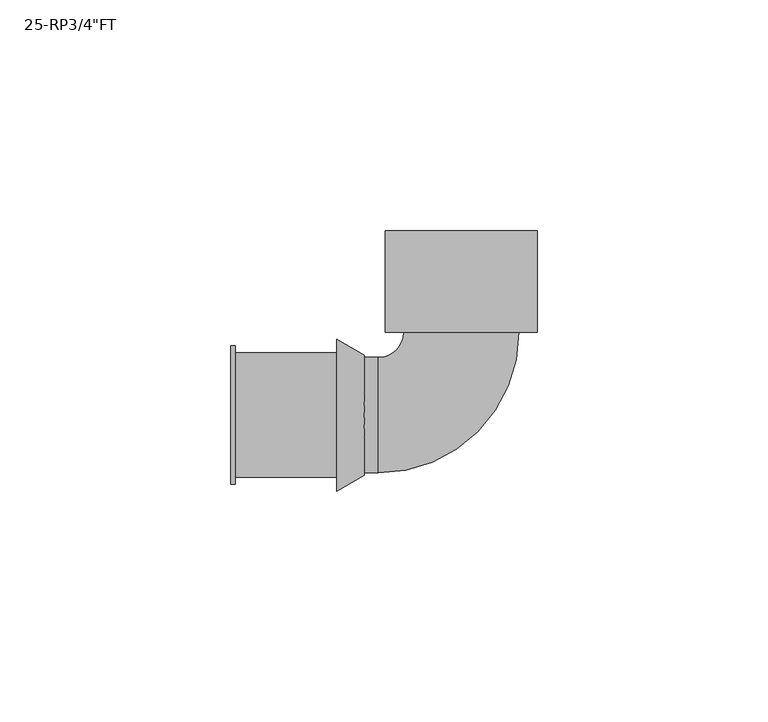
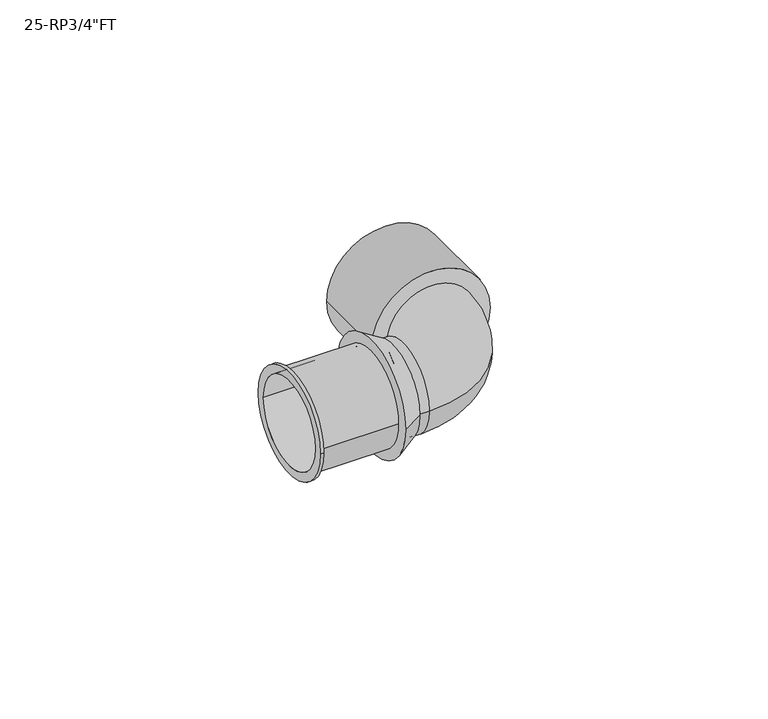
"""IFC4 building model written with IfcOpenShell, lengths in millimetres: pipe fitting geometry."""

import ifcopenshell
import ifcopenshell.guid

model = None  # the IFC model being written
_history = None  # IfcOwnerHistory: only IFC2X3 demands one
_inside = {}  # id of a spatial element -> (the spatial element, [elements in it])
_under = {}  # id of a project, library or spatial element -> (it, [spatial elements below it])
_declared = {}  # id of a project -> (the project, [libraries it declares])
_typed = {}  # id of a type object -> (the type object, [elements of that type])
_made_of = {}  # id of a material, layer set ... -> (it, [elements and type objects made of it])


def new_model(schema):
    """Start an empty IFC model of exactly this schema.

    Asked for "IFC4X3", IfcOpenShell would pick the latest addendum, in which some entities
    have other attributes; the version numbers below select the first issue.
    IFC2X3 requires an IfcOwnerHistory on every rooted entity: one is made here for all.
    """
    global model, _history
    if schema == "IFC4X3":
        model = ifcopenshell.file(schema_version=(4, 3, 0, 0))
    else:
        model = ifcopenshell.file(schema=schema)
    _inside.clear()
    _under.clear()
    _declared.clear()
    _typed.clear()
    _made_of.clear()
    _history = None
    if model.schema == "IFC2X3":
        org = make("IfcOrganization", Name="unknown")
        user = make(
            "IfcPersonAndOrganization",
            ThePerson=make("IfcPerson", FamilyName="unknown"),
            TheOrganization=org,
        )
        app = make(
            "IfcApplication",
            ApplicationDeveloper=org,
            Version="unknown",
            ApplicationFullName="unknown",
            ApplicationIdentifier="unknown",
        )
        _history = make(
            "IfcOwnerHistory",
            OwningUser=user,
            OwningApplication=app,
            ChangeAction="ADDED",
            CreationDate=0,
        )
    return model


def make(cls, **values):
    """One entity of the class cls with the attributes given. An attribute that is None is left unset."""
    return model.create_entity(
        cls, **{name: value for name, value in values.items() if value is not None}
    )


def rooted(cls, **values):
    """An entity with a GlobalId (a new one), such as an element, a storey or a relation."""
    return make(cls, GlobalId=ifcopenshell.guid.new(), OwnerHistory=_history, **values)


def si_unit(unit_type, name, prefix=None):
    """IfcSIUnit, for example si_unit("LENGTHUNIT", "METRE", prefix="MILLI")."""
    return make("IfcSIUnit", UnitType=unit_type, Prefix=prefix, Name=name)


def assignment(units):
    """IfcUnitAssignment: the units of a project."""
    return None if units is None else make("IfcUnitAssignment", Units=units)


def point(xyz):
    """IfcCartesianPoint."""
    return None if xyz is None else make("IfcCartesianPoint", Coordinates=xyz)


def direction(xyz):
    """IfcDirection."""
    return None if xyz is None else make("IfcDirection", DirectionRatios=xyz)


def frame(location, z_axis=None, x_axis=None):
    """IfcAxis2Placement3D, a coordinate frame: its origin and axes. An axis left out is left unset."""
    return make(
        "IfcAxis2Placement3D",
        Location=point(location),
        Axis=direction(z_axis),
        RefDirection=direction(x_axis),
    )


def origin():
    """The frame at (0, 0, 0) with its axes left unset."""
    return frame((0.0, 0.0, 0.0))


def place(relative_to, where):
    """IfcLocalPlacement: puts the frame where relative to a parent placement (None: the world)."""
    return make(
        "IfcLocalPlacement", PlacementRelTo=relative_to, RelativePlacement=where
    )


def context(
    kind, dimensions, precision=None, world=None, true_north=None, identifier=None
):
    """IfcGeometricRepresentationContext, for example the 3D "Model" context."""
    return make(
        "IfcGeometricRepresentationContext",
        ContextIdentifier=identifier,
        ContextType=kind,
        CoordinateSpaceDimension=dimensions,
        Precision=precision,
        WorldCoordinateSystem=world,
        TrueNorth=true_north,
    )


def project(units=None, contexts=None):
    """IfcProject with its units and contexts."""
    return rooted(
        "IfcProject",
        Name="project",
        RepresentationContexts=contexts,
        UnitsInContext=assignment(units),
    )


def spatial(cls, under=None, at=None, **own):
    """A site, building, storey or space (cls), placed at a placement, below another one or the project."""
    s = rooted(cls, ObjectPlacement=at, **own)
    if under is not None:
        _under.setdefault(under.id(), (under, []))[1].append(s)
    return s


def polyline(points):
    """IfcPolyline through the points."""
    return make("IfcPolyline", Points=[point(p) for p in points])


def circle_curve(where, radius):
    """IfcCircle in the frame where."""
    return make("IfcCircle", Position=where, Radius=radius)


def ellipse_curve(where, semi_axis1, semi_axis2):
    """IfcEllipse in the frame where."""
    return make(
        "IfcEllipse", Position=where, SemiAxis1=semi_axis1, SemiAxis2=semi_axis2
    )


def trimmed(basis, trim1, trim2, sense, master):
    """IfcTrimmedCurve: the piece of a basis curve between two trims."""
    return make(
        "IfcTrimmedCurve",
        BasisCurve=basis,
        Trim1=trim1,
        Trim2=trim2,
        SenseAgreement=sense,
        MasterRepresentation=master,
    )


def shape(context_of_items, identifier, shape_type, items):
    """IfcShapeRepresentation: the items that make up one representation, for example the "Body"."""
    return make(
        "IfcShapeRepresentation",
        ContextOfItems=context_of_items,
        RepresentationIdentifier=identifier,
        RepresentationType=shape_type,
        Items=items,
    )


def source(mapping_origin, context_of_items, identifier, shape_type, items):
    """IfcRepresentationMap: a shape defined once, which mapped items show again and again."""
    return make(
        "IfcRepresentationMap",
        MappingOrigin=mapping_origin,
        MappedRepresentation=shape(context_of_items, identifier, shape_type, items),
    )


def transform(
    local_origin,
    x_axis=None,
    y_axis=None,
    z_axis=None,
    scale=None,
    scale2=None,
    scale3=None,
    uniform=True,
):
    """IfcCartesianTransformationOperator3D, or its non-uniform kind. x_axis, y_axis, z_axis: its Axis1, 2, 3."""
    if uniform:
        return make(
            "IfcCartesianTransformationOperator3D",
            Axis1=direction(x_axis),
            Axis2=direction(y_axis),
            LocalOrigin=point(local_origin),
            Scale=scale,
            Axis3=direction(z_axis),
        )
    return make(
        "IfcCartesianTransformationOperator3DnonUniform",
        Axis1=direction(x_axis),
        Axis2=direction(y_axis),
        LocalOrigin=point(local_origin),
        Scale=scale,
        Axis3=direction(z_axis),
        Scale2=scale2,
        Scale3=scale3,
    )


def mapped(mapping_source, mapping_target):
    """IfcMappedItem: shows the shape of a source again, moved by a transform."""
    return make(
        "IfcMappedItem", MappingSource=mapping_source, MappingTarget=mapping_target
    )


def made_of(thing, what):
    """Note that an element or type object is made of a material, layer set ...; save() writes the relation."""
    if what is not None:
        _made_of.setdefault(what.id(), (what, []))[1].append(thing)
    return thing


def element(
    cls,
    number,
    at=None,
    inside=None,
    cuts=None,
    type_object=None,
    material=None,
    context=None,
    identifier="Body",
    shape_type=None,
    held_by="IfcProductDefinitionShape",
    body=None,
    shapes=None,
    **own,
):
    """One element of the class cls, such as IfcWall. Its Tag is "e" and its number.

    at: its placement. inside: the storey or other place that contains it. cuts: it is an
    opening in that element (IfcRelVoidsElement). A single representation is given by context,
    identifier, shape_type and body (its items); several are given by shapes. held_by: the class
    of the entity that holds the representations. save() writes the other relations.
    """
    e = rooted(cls, Tag="e%d" % number, ObjectPlacement=at, **own)
    if body is not None:
        shapes = [shape(context, identifier, shape_type, body)]
    if shapes is not None:
        e.Representation = make(held_by, Representations=shapes)
    if inside is not None:
        _inside.setdefault(inside.id(), (inside, []))[1].append(e)
    if cuts is not None:
        rooted(
            "IfcRelVoidsElement", RelatingBuildingElement=cuts, RelatedOpeningElement=e
        )
    if type_object is not None:
        _typed.setdefault(type_object.id(), (type_object, []))[1].append(e)
    return made_of(e, material)


def aggregate(whole, parts):
    """IfcRelAggregates: a whole, such as a stair, and the parts it consists of."""
    return rooted("IfcRelAggregates", RelatingObject=whole, RelatedObjects=parts)


def save(model, path):
    """Write the relations noted so far, then the file.

    IfcRelAggregates (storeys below a building ...), IfcRelContainedInSpatialStructure (elements
    in a storey), IfcRelDefinesByType, IfcRelAssociatesMaterial and IfcRelDeclares: one each for
    every whole, place, type object, material and project.
    """
    for whole, parts in _under.values():
        aggregate(whole, parts)
    for where, things in _inside.values():
        rooted(
            "IfcRelContainedInSpatialStructure",
            RelatedElements=things,
            RelatingStructure=where,
        )
    for kind, things in _typed.values():
        rooted("IfcRelDefinesByType", RelatedObjects=things, RelatingType=kind)
    for what, things in _made_of.values():
        rooted("IfcRelAssociatesMaterial", RelatedObjects=things, RelatingMaterial=what)
    for by, libraries in _declared.values():
        rooted("IfcRelDeclares", RelatingContext=by, RelatedDefinitions=libraries)
    model.write(path)


def plane_surface(at):
    """IfcPlane: the flat surface through the origin of the frame at, square to its z axis."""
    return make("IfcPlane", Position=at)


def cylinder_surface(at, radius):
    """IfcCylindricalSurface: all points at the distance radius from the z axis of the frame at."""
    return make("IfcCylindricalSurface", Position=at, Radius=radius)


def revolved_surface(curve, axis_point, axis_direction):
    """IfcSurfaceOfRevolution: the curve turned about the line through axis_point along axis_direction."""
    return make(
        "IfcSurfaceOfRevolution",
        SweptCurve=make("IfcArbitraryOpenProfileDef", ProfileType="CURVE", Curve=curve),
        AxisPosition=make("IfcAxis1Placement", Location=point(axis_point), Axis=direction(axis_direction)),
    )


def advanced_brep(points, edges, surfaces, faces):
    """IfcAdvancedBrep: a solid bounded by faces that lie on surfaces and meet in shared edges.

    An edge is (start, end): straight between two places in points (the first is 0);
    or (start, end, curve); or (start, end, curve, False) where it runs against its curve.
    A face is (place in surfaces, loops), or (place, loops, False) where it looks against
    its surface's normal. A loop lists edges by number (the first is 1), with a minus sign
    where the edge is run from its end to its start. The first loop is the outer one.
    """
    corners = [point(p) for p in points]
    vertices = [make("IfcVertexPoint", VertexGeometry=c) for c in corners]
    made = []
    for start, end, *more in edges:
        made.append(
            make(
                "IfcEdgeCurve",
                EdgeStart=vertices[start],
                EdgeEnd=vertices[end],
                EdgeGeometry=more[0] if more else make("IfcPolyline", Points=[corners[start], corners[end]]),
                SameSense=more[1] if len(more) > 1 else True,
            )
        )
    hull = []
    for where, loops, *sense in faces:
        bounds = []
        for j, loop in enumerate(loops):
            ring = [make("IfcOrientedEdge", EdgeElement=made[abs(k) - 1], Orientation=k > 0) for k in loop]
            bounds.append(
                make(
                    "IfcFaceOuterBound" if j == 0 else "IfcFaceBound",
                    Bound=make("IfcEdgeLoop", EdgeList=ring),
                    Orientation=True,
                )
            )
        hull.append(make("IfcAdvancedFace", Bounds=bounds, FaceSurface=surfaces[where], SameSense=sense[0] if sense else True))
    return make("IfcAdvancedBrep", Outer=make("IfcClosedShell", CfsFaces=hull))


def pipe_fitting_430ad02c(model_context):
    return source(origin(), model_context, "Body", "AdvancedBrep", [
        advanced_brep(
        [(-16.5, 40.0, 0.0), (16.5, 40.0, 0.0), (-12.5, 40.0, 0.0), (12.5, 40.0, 0.0), (-16.5, 18.0, 0.0), (16.5, 18.0, 0.0), (-12.5, 19.0, 0.0), (12.5, 19.0, 0.0)],
        [
            (0, 1, circle_curve(frame((0.0, 40.0, 0.0), z_axis=(0.0, 1.0, 0.0), x_axis=(1.0, 0.0, 0.0)), 16.5)),
            (1, 0, circle_curve(frame((0.0, 40.0, 0.0), z_axis=(0.0, 1.0, 0.0), x_axis=(1.0, 0.0, 0.0)), 16.5)),
            (2, 3, circle_curve(frame((0.0, 40.0, 0.0), z_axis=(0.0, -1.0, 0.0), x_axis=(1.0, 0.0, 0.0)), 12.5)),
            (3, 2, circle_curve(frame((0.0, 40.0, 0.0), z_axis=(0.0, -1.0, 0.0), x_axis=(1.0, 0.0, 0.0)), 12.5)),
            (4, 5, circle_curve(frame((0.0, 18.0, 0.0), z_axis=(0.0, -1.0, 0.0), x_axis=(1.0, 0.0, 0.0)), 16.5)),
            (5, 4, circle_curve(frame((0.0, 18.0, 0.0), z_axis=(0.0, -1.0, 0.0), x_axis=(1.0, 0.0, 0.0)), 16.5)),
            (1, 5),
            (4, 0),
            (2, 6),
            (6, 7, circle_curve(frame((0.0, 19.0, 0.0), z_axis=(0.0, -1.0, 0.0), x_axis=(1.0, 0.0, 0.0)), 12.5)),
            (7, 3),
            (7, 6, circle_curve(frame((0.0, 19.0, 0.0), z_axis=(0.0, -1.0, 0.0), x_axis=(1.0, 0.0, 0.0)), 12.5)),
        ],
        [
            plane_surface(frame((0.0, 40.0, 0.0), z_axis=(0.0, 1.0, 0.0), x_axis=(0.0, 0.0, 1.0))),
            plane_surface(frame((0.0, 18.0, 0.0), z_axis=(0.0, -1.0, 0.0), x_axis=(0.0, 0.0, 1.0))),
            cylinder_surface(frame((0.0, 40.0, 0.0), z_axis=(0.0, 1.0, 0.0), x_axis=(1.0, 0.0, 0.0)), 16.5),
            revolved_surface(polyline([(12.5, 19.0, 0.0), (12.5, 40.0, 0.0)]), (0.0, 40.0, 0.0), (0.0, -1.0, 0.0)),
            plane_surface(frame((0.0, 19.0, 0.0), z_axis=(0.0, 1.0, 0.0), x_axis=(0.0, 0.0, 1.0))),
        ],
        [
            (0, [[1, 2], [3, 4]]),
            (1, [[5, 6]]),
            (2, [[-2, 7, -5, 8]]),
            (2, [[-1, -8, -6, -7]]),
            (3, [[-3, 9, 10, 11]]),
            (3, [[-4, -11, 12, -9]]),
            (4, [[-10, -12]]),
        ],
    ),
        advanced_brep(
        [(12.5, 18.0, 0.0), (-12.5, 18.0, 0.0), (-18.0, 12.5, 0.0), (-18.0, -12.5, 0.0), (-21.0, -12.5, 0.0), (-21.0, 12.5, 0.0)],
        [
            (0, 1, circle_curve(frame((0.0, 18.0, 0.0), z_axis=(0.0, 1.0, 0.0), x_axis=(-1.0, 0.0, 0.0)), 12.5)),
            (1, 0, circle_curve(frame((0.0, 18.0, 0.0), z_axis=(0.0, 1.0, 0.0), x_axis=(-1.0, 0.0, 0.0)), 12.5)),
            (1, 2, circle_curve(frame((-18.0, 18.0, 0.0), z_axis=(0.0, 0.0, -1.0), x_axis=(0.0, -1.0, 0.0)), 5.5)),
            (2, 3, circle_curve(frame((-18.0, 0.0, 0.0), z_axis=(1.0, 0.0, 0.0), x_axis=(0.0, 1.0, 0.0)), 12.5)),
            (3, 0, circle_curve(frame((-18.0, 18.0, 0.0), z_axis=(0.0, 0.0, 1.0), x_axis=(0.0, -1.0, 0.0)), 30.5)),
            (3, 2, circle_curve(frame((-18.0, 0.0, 0.0), z_axis=(1.0, 0.0, 0.0), x_axis=(0.0, 1.0, 0.0)), 12.5)),
            (4, 5, circle_curve(frame((-21.0, 0.0, 0.0), z_axis=(-1.0, 0.0, 0.0), x_axis=(0.0, 1.0, 0.0)), 12.5)),
            (5, 4, circle_curve(frame((-21.0, 0.0, 0.0), z_axis=(-1.0, 0.0, 0.0), x_axis=(0.0, 1.0, 0.0)), 12.5)),
            (4, 3),
            (2, 5),
        ],
        [
            plane_surface(frame((0.0, 18.0, 0.0), z_axis=(0.0, 1.0, 0.0), x_axis=(0.0, 0.0, 1.0))),
            revolved_surface(trimmed(ellipse_curve(frame((-18.0, 0.0, 0.0), z_axis=(-1.0, 0.0, 0.0), x_axis=(0.0, 1.0, 0.0)), 12.5, 12.5), [point((-18.0, -12.5, 0.0))], [point((-18.0, 12.5, 0.0))], True, "CARTESIAN"), (-18.0, 18.0, 0.0), (0.0, 0.0, 1.0)),
            revolved_surface(trimmed(ellipse_curve(frame((-18.0, 0.0, 0.0), z_axis=(-1.0, 0.0, 0.0), x_axis=(0.0, 1.0, 0.0)), 12.5, 12.5), [point((-18.0, 12.5, 0.0))], [point((-18.0, -12.5, 0.0))], True, "CARTESIAN"), (-18.0, 18.0, 0.0), (0.0, 0.0, 1.0)),
            plane_surface(frame((-21.0, 0.0, 0.0), z_axis=(-1.0, 0.0, 0.0), x_axis=(0.0, 0.0, 1.0))),
            cylinder_surface(frame((-21.0, 0.0, 0.0), z_axis=(-1.0, 0.0, 0.0), x_axis=(0.0, 1.0, 0.0)), 12.5),
        ],
        [
            (0, [[1, 2]]),
            (1, [[-2, 3, 4, 5]]),
            (2, [[-1, -5, 6, -3]]),
            (3, [[7, 8]]),
            (4, [[-7, 9, -4, 10]]),
            (4, [[-8, -10, -6, -9]]),
        ],
    ),
        advanced_brep(
        [(-21.0, -13.0, 0.0), (-21.0, 13.0, 0.0), (-21.0, 12.5, 0.0), (-21.0, -12.5, 0.0), (-27.0, -16.5, 0.0), (-27.0, 16.5, 0.0), (-27.0, -12.5, 0.0), (-27.0, 12.5, 0.0)],
        [
            (0, 1, circle_curve(frame((-21.0, 0.0, 0.0), z_axis=(1.0, 0.0, 0.0), x_axis=(0.0, -1.0, 0.0)), 13.0)),
            (1, 0, circle_curve(frame((-21.0, 0.0, 0.0), z_axis=(1.0, 0.0, 0.0), x_axis=(0.0, 1.0, 0.0)), 13.0)),
            (2, 3, circle_curve(frame((-21.0, 0.0, 0.0), z_axis=(-1.0, 0.0, 0.0), x_axis=(0.0, 1.0, 0.0)), 12.5)),
            (3, 2, circle_curve(frame((-21.0, 0.0, 0.0), z_axis=(-1.0, 0.0, 0.0), x_axis=(0.0, 1.0, 0.0)), 12.5)),
            (4, 5, circle_curve(frame((-27.0, 0.0, 0.0), z_axis=(-1.0, 0.0, 0.0), x_axis=(0.0, 1.0, 0.0)), 16.5)),
            (5, 4, circle_curve(frame((-27.0, 0.0, 0.0), z_axis=(-1.0, 0.0, 0.0), x_axis=(0.0, -1.0, 0.0)), 16.5)),
            (6, 7, circle_curve(frame((-27.0, 0.0, 0.0), z_axis=(1.0, 0.0, 0.0), x_axis=(0.0, 1.0, 0.0)), 12.5)),
            (7, 6, circle_curve(frame((-27.0, 0.0, 0.0), z_axis=(1.0, 0.0, 0.0), x_axis=(0.0, 1.0, 0.0)), 12.5)),
            (0, 4),
            (5, 1),
            (2, 7),
            (6, 3),
        ],
        [
            plane_surface(frame((-21.0, 0.0, 0.0), z_axis=(1.0, 0.0, 0.0), x_axis=(0.0, 0.0, -1.0))),
            plane_surface(frame((-27.0, 0.0, 0.0), z_axis=(-1.0, 0.0, 0.0), x_axis=(0.0, 0.0, -1.0))),
            revolved_surface(polyline([(-21.0, -13.000000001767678, 0.0), (-27.0, -16.5, 0.0)]), (1.2857143, 0.0, 0.0), (-1.0, 0.0, 0.0)),
            revolved_surface(polyline([(-21.0, 13.000000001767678, 0.0), (-27.0, 16.5, 0.0)]), (1.2857143, 0.0, 0.0), (-1.0, 0.0, 0.0)),
            revolved_surface(polyline([(-21.0, 12.5, 0.0), (-27.0, 12.5, 0.0)]), (-27.0, 0.0, 0.0), (1.0, 0.0, 0.0)),
        ],
        [
            (0, [[1, 2], [3, 4]]),
            (1, [[5, 6], [7, 8]]),
            (2, [[-1, 9, -6, 10]]),
            (3, [[-2, -10, -5, -9]]),
            (4, [[11, -7, 12, -3]]),
            (4, [[-11, -4, -12, -8]]),
        ],
    ),
        advanced_brep(
        [(-50.0, -15.0, 0.0), (-50.0, 15.0, 0.0), (-50.0, -12.5, 0.0), (-50.0, 12.5, 0.0), (-27.0, -13.5, 0.0), (-27.0, 13.5, 0.0), (-27.0, -12.5, 0.0), (-27.0, 12.5, 0.0), (-49.0, 13.5, 0.0), (-49.0, -13.5, 0.0), (-49.0, -15.0, 0.0), (-49.0, 15.0, 0.0)],
        [
            (0, 1, circle_curve(frame((-50.0, 0.0, 0.0), z_axis=(-1.0, 0.0, 0.0), x_axis=(0.0, 1.0, 0.0)), 15.0)),
            (1, 0, circle_curve(frame((-50.0, 0.0, 0.0), z_axis=(-1.0, 0.0, 0.0), x_axis=(0.0, 1.0, 0.0)), 15.0)),
            (2, 3, circle_curve(frame((-50.0, 0.0, 0.0), z_axis=(1.0, 0.0, 0.0), x_axis=(0.0, 1.0, 0.0)), 12.5)),
            (3, 2, circle_curve(frame((-50.0, 0.0, 0.0), z_axis=(1.0, 0.0, 0.0), x_axis=(0.0, 1.0, 0.0)), 12.5)),
            (4, 5, circle_curve(frame((-27.0, 0.0, 0.0), z_axis=(1.0, 0.0, 0.0), x_axis=(0.0, 1.0, 0.0)), 13.5)),
            (5, 4, circle_curve(frame((-27.0, 0.0, 0.0), z_axis=(1.0, 0.0, 0.0), x_axis=(0.0, 1.0, 0.0)), 13.5)),
            (6, 7, circle_curve(frame((-27.0, 0.0, 0.0), z_axis=(-1.0, 0.0, 0.0), x_axis=(0.0, 1.0, 0.0)), 12.5)),
            (7, 6, circle_curve(frame((-27.0, 0.0, 0.0), z_axis=(-1.0, 0.0, 0.0), x_axis=(0.0, 1.0, 0.0)), 12.5)),
            (2, 6),
            (7, 3),
            (5, 8),
            (8, 9, circle_curve(frame((-49.0, 0.0, 0.0), z_axis=(1.0, 0.0, 0.0), x_axis=(0.0, 1.0, 0.0)), 13.5)),
            (9, 4),
            (9, 8, circle_curve(frame((-49.0, 0.0, 0.0), z_axis=(1.0, 0.0, 0.0), x_axis=(0.0, 1.0, 0.0)), 13.5)),
            (10, 11, circle_curve(frame((-49.0, 0.0, 0.0), z_axis=(1.0, 0.0, 0.0), x_axis=(0.0, 1.0, 0.0)), 15.0)),
            (11, 10, circle_curve(frame((-49.0, 0.0, 0.0), z_axis=(1.0, 0.0, 0.0), x_axis=(0.0, 1.0, 0.0)), 15.0)),
            (0, 10),
            (11, 1),
        ],
        [
            plane_surface(frame((-50.0, 0.0, 0.0), z_axis=(-1.0, 0.0, 0.0), x_axis=(0.0, 0.0, 1.0))),
            plane_surface(frame((-27.0, 0.0, 0.0), z_axis=(1.0, 0.0, 0.0), x_axis=(0.0, 0.0, 1.0))),
            revolved_surface(polyline([(-27.0, 12.5, 0.0), (-50.0, 12.5, 0.0)]), (-50.0, 0.0, 0.0), (1.0, 0.0, 0.0)),
            cylinder_surface(frame((-50.0, 0.0, 0.0), z_axis=(-1.0, 0.0, 0.0), x_axis=(0.0, 1.0, 0.0)), 13.5),
            plane_surface(frame((-49.0, 0.0, 0.0), z_axis=(1.0, 0.0, 0.0), x_axis=(0.0, 0.0, 1.0))),
            cylinder_surface(frame((-50.0, 0.0, 0.0), z_axis=(-1.0, 0.0, 0.0), x_axis=(0.0, 1.0, 0.0)), 15.0),
        ],
        [
            (0, [[1, 2], [3, 4]]),
            (1, [[5, 6], [7, 8]]),
            (2, [[-3, 9, -8, 10]]),
            (2, [[-4, -10, -7, -9]]),
            (3, [[-6, 11, 12, 13]]),
            (3, [[-5, -13, 14, -11]]),
            (4, [[15, 16], [-12, -14]]),
            (5, [[-1, 17, -16, 18]]),
            (5, [[-2, -18, -15, -17]]),
        ],
    ),
    ])


if __name__ == "__main__":
    model = new_model("IFC4")
    model_context = context("Model", 3, world=origin())
    ifc_project = project(units=[si_unit("LENGTHUNIT", "METRE", prefix="MILLI")], contexts=[model_context])
    site = spatial("IfcSite", under=ifc_project)
    building = spatial("IfcBuilding", under=site)
    placement = place(None, origin())
    pipe_fitting_shape = pipe_fitting_430ad02c(model_context)
    element("IfcPipeFitting", 1, ObjectType="SuperPipe_ElbowAdapterFT_MAX_RP : 25-RP3/4\"FT", at=placement, inside=building, context=model_context, shape_type="MappedRepresentation", body=[
        mapped(pipe_fitting_shape, transform((0.0, 0.0, 0.0), x_axis=(1.0, 0.0, 0.0), y_axis=(0.0, 1.0, 0.0), z_axis=(0.0, 0.0, 1.0))),
    ])
    save(model, "model.ifc")
